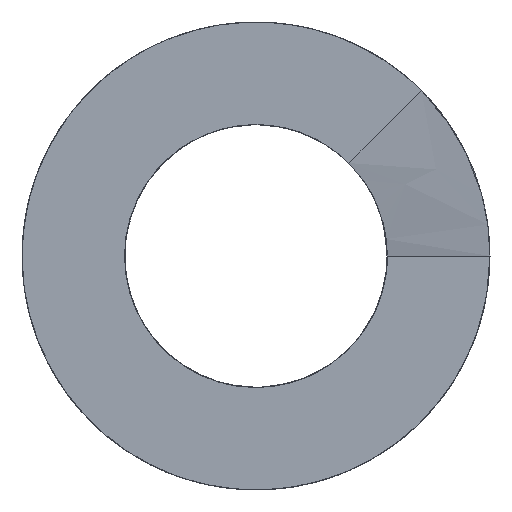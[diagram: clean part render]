
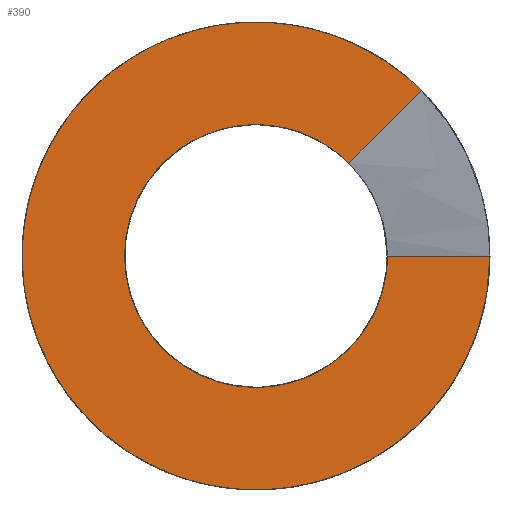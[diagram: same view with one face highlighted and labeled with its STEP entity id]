
A CAD part, front view. The second image highlights one B-rep face of the part: STEP entity #390.
In plain terms, the highlighted planar face has unit normal (0, -1, 0).
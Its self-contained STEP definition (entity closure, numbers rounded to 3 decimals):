
#36=LINE('',#2407,#44);
#44=VECTOR('',#461,10.);
#74=B_SPLINE_CURVE_WITH_KNOTS('',3,(#1850,#1851,#1852,#1853,#1854,#1855,
#1856,#1857,#1858,#1859,#1860,#1861,#1862,#1863,#1864,#1865,#1866,#1867,
#1868,#1869,#1870,#1871,#1872,#1873,#1874,#1875,#1876,#1877,#1878,#1879,
#1880,#1881,#1882,#1883,#1884,#1885,#1886,#1887),.UNSPECIFIED.,.F.,.F.,
(4,2,2,2,2,2,2,2,2,2,2,2,2,2,2,2,2,2,4),(-4.879,-4.531,
-4.186,-3.87,-3.589,-3.339,
-3.127,-2.994,-2.919,-2.869,
-2.766,-2.42,-2.074,-1.729,
-1.383,-1.037,-0.691,-0.346,
0.),.UNSPECIFIED.);
#83=B_SPLINE_CURVE_WITH_KNOTS('',3,(#2305,#2306,#2307,#2308,#2309,#2310,
#2311,#2312,#2313,#2314,#2315,#2316,#2317,#2318,#2319,#2320,#2321,#2322,
#2323,#2324,#2325,#2326,#2327,#2328,#2329,#2330,#2331,#2332,#2333,#2334,
#2335,#2336,#2337,#2338,#2339,#2340,#2341,#2342),.UNSPECIFIED.,.F.,.F.,
(4,2,2,2,2,2,2,2,2,2,2,2,2,2,2,2,2,2,4),(-8.682,-8.186,
-7.691,-7.075,-6.46,-5.845,
-5.23,-4.614,-3.999,-3.687,
-3.563,-3.484,-3.344,-2.742,
-2.304,-1.853,-1.231,-0.615,
0.),.UNSPECIFIED.);
#89=B_SPLINE_CURVE_WITH_KNOTS('',3,(#2401,#2402,#2403,#2404,#2405,#2406),
 .UNSPECIFIED.,.F.,.F.,(4,2,4),(-0.69,-0.345,0.),.UNSPECIFIED.);
#114=FACE_OUTER_BOUND('',#140,.T.);
#140=EDGE_LOOP('',(#335,#336,#337,#338));
#171=VERTEX_POINT('',#1566);
#178=VERTEX_POINT('',#1844);
#181=VERTEX_POINT('',#1988);
#186=VERTEX_POINT('',#2304);
#224=EDGE_CURVE('',#178,#171,#74,.T.);
#235=EDGE_CURVE('',#181,#186,#83,.T.);
#242=EDGE_CURVE('',#186,#178,#89,.T.);
#243=EDGE_CURVE('',#171,#181,#36,.T.);
#335=ORIENTED_EDGE('',*,*,#242,.F.);
#336=ORIENTED_EDGE('',*,*,#235,.F.);
#337=ORIENTED_EDGE('',*,*,#243,.F.);
#338=ORIENTED_EDGE('',*,*,#224,.F.);
#372=PLANE('',#429);
#390=ADVANCED_FACE('',(#114),#372,.F.);
#429=AXIS2_PLACEMENT_3D('',#2400,#459,#460);
#459=DIRECTION('center_axis',(0.,1.,0.));
#460=DIRECTION('ref_axis',(0.,0.,1.));
#461=DIRECTION('',(1.,0.,0.));
#1566=CARTESIAN_POINT('',(8.85,0.,0.));
#1844=CARTESIAN_POINT('',(6.258,0.,6.258));
#1850=CARTESIAN_POINT('Ctrl Pts',(6.258,0.,
6.258));
#1851=CARTESIAN_POINT('Ctrl Pts',(5.44,0.,
7.076));
#1852=CARTESIAN_POINT('Ctrl Pts',(4.469,0.,
7.726));
#1853=CARTESIAN_POINT('Ctrl Pts',(2.336,0.,
8.614));
#1854=CARTESIAN_POINT('Ctrl Pts',(1.196,0.,
8.844));
#1855=CARTESIAN_POINT('Ctrl Pts',(-1.008,0.,
8.855));
#1856=CARTESIAN_POINT('Ctrl Pts',(-2.052,0.,
8.673));
#1857=CARTESIAN_POINT('Ctrl Pts',(-3.921,0.,
7.989));
#1858=CARTESIAN_POINT('Ctrl Pts',(-4.746,0.,
7.528));
#1859=CARTESIAN_POINT('Ctrl Pts',(-6.137,0.,
6.431));
#1860=CARTESIAN_POINT('Ctrl Pts',(-6.714,0.,
5.825));
#1861=CARTESIAN_POINT('Ctrl Pts',(-7.609,0.,
4.574));
#1862=CARTESIAN_POINT('Ctrl Pts',(-7.949,0.,
3.953));
#1863=CARTESIAN_POINT('Ctrl Pts',(-8.378,0.,
2.887));
#1864=CARTESIAN_POINT('Ctrl Pts',(-8.512,0.,
2.463));
#1865=CARTESIAN_POINT('Ctrl Pts',(-8.671,0.,
1.786));
#1866=CARTESIAN_POINT('Ctrl Pts',(-8.719,0.,
1.539));
#1867=CARTESIAN_POINT('Ctrl Pts',(-8.779,0.,
1.128));
#1868=CARTESIAN_POINT('Ctrl Pts',(-8.799,0.,
0.965));
#1869=CARTESIAN_POINT('Ctrl Pts',(-8.845,0.,
0.458));
#1870=CARTESIAN_POINT('Ctrl Pts',(-8.856,0.,0.113));
#1871=CARTESIAN_POINT('Ctrl Pts',(-8.817,0.,-1.384));
#1872=CARTESIAN_POINT('Ctrl Pts',(-8.562,0.,-2.519));
#1873=CARTESIAN_POINT('Ctrl Pts',(-7.631,0.,-4.628));
#1874=CARTESIAN_POINT('Ctrl Pts',(-6.964,0.,-5.581));
#1875=CARTESIAN_POINT('Ctrl Pts',(-5.303,0.,-7.179));
#1876=CARTESIAN_POINT('Ctrl Pts',(-4.324,0.,-7.807));
#1877=CARTESIAN_POINT('Ctrl Pts',(-2.18,0.,-8.654));
#1878=CARTESIAN_POINT('Ctrl Pts',(-1.036,0.,-8.864));
#1879=CARTESIAN_POINT('Ctrl Pts',(1.268,0.,-8.834));
#1880=CARTESIAN_POINT('Ctrl Pts',(2.407,0.,-8.594));
#1881=CARTESIAN_POINT('Ctrl Pts',(4.527,0.,-7.691));
#1882=CARTESIAN_POINT('Ctrl Pts',(5.489,0.,-7.037));
#1883=CARTESIAN_POINT('Ctrl Pts',(7.108,0.,-5.396));
#1884=CARTESIAN_POINT('Ctrl Pts',(7.75,0.,-4.426));
#1885=CARTESIAN_POINT('Ctrl Pts',(8.625,0.,-2.294));
#1886=CARTESIAN_POINT('Ctrl Pts',(8.85,0.,-1.152));
#1887=CARTESIAN_POINT('Ctrl Pts',(8.85,0.,0.));
#1988=CARTESIAN_POINT('',(15.75,0.,0.));
#2304=CARTESIAN_POINT('',(11.137,0.,11.137));
#2305=CARTESIAN_POINT('Ctrl Pts',(15.75,0.,0.));
#2306=CARTESIAN_POINT('Ctrl Pts',(15.75,0.,-1.652));
#2307=CARTESIAN_POINT('Ctrl Pts',(15.49,0.,-3.294));
#2308=CARTESIAN_POINT('Ctrl Pts',(14.469,0.,-6.437));
#2309=CARTESIAN_POINT('Ctrl Pts',(13.715,0.,-7.918));
#2310=CARTESIAN_POINT('Ctrl Pts',(11.539,0.,-10.914));
#2311=CARTESIAN_POINT('Ctrl Pts',(10.021,0.,-12.323));
#2312=CARTESIAN_POINT('Ctrl Pts',(6.531,0.,-14.478));
#2313=CARTESIAN_POINT('Ctrl Pts',(4.592,0.,-15.205));
#2314=CARTESIAN_POINT('Ctrl Pts',(0.546,0.,-15.874));
#2315=CARTESIAN_POINT('Ctrl Pts',(-1.524,0.,-15.81));
#2316=CARTESIAN_POINT('Ctrl Pts',(-5.522,0.,-14.892));
#2317=CARTESIAN_POINT('Ctrl Pts',(-7.412,0.,-14.048));
#2318=CARTESIAN_POINT('Ctrl Pts',(-10.762,0.,-11.681));
#2319=CARTESIAN_POINT('Ctrl Pts',(-12.19,0.,-10.182));
#2320=CARTESIAN_POINT('Ctrl Pts',(-14.391,0.,-6.721));
#2321=CARTESIAN_POINT('Ctrl Pts',(-15.143,0.,-4.792));
#2322=CARTESIAN_POINT('Ctrl Pts',(-15.687,0.,-1.749));
#2323=CARTESIAN_POINT('Ctrl Pts',(-15.768,0.,
-0.71));
#2324=CARTESIAN_POINT('Ctrl Pts',(-15.738,0.,
0.744));
#2325=CARTESIAN_POINT('Ctrl Pts',(-15.713,0.,
1.157));
#2326=CARTESIAN_POINT('Ctrl Pts',(-15.646,0.,
1.829));
#2327=CARTESIAN_POINT('Ctrl Pts',(-15.613,0.,
2.089));
#2328=CARTESIAN_POINT('Ctrl Pts',(-15.504,0.,
2.813));
#2329=CARTESIAN_POINT('Ctrl Pts',(-15.413,0.,
3.274));
#2330=CARTESIAN_POINT('Ctrl Pts',(-14.827,0.,
5.678));
#2331=CARTESIAN_POINT('Ctrl Pts',(-13.984,0.,
7.518));
#2332=CARTESIAN_POINT('Ctrl Pts',(-11.971,0.,
10.339));
#2333=CARTESIAN_POINT('Ctrl Pts',(-10.961,0.,
11.404));
#2334=CARTESIAN_POINT('Ctrl Pts',(-8.644,0.,
13.251));
#2335=CARTESIAN_POINT('Ctrl Pts',(-7.341,0.,
14.015));
#2336=CARTESIAN_POINT('Ctrl Pts',(-4.029,0.,
15.367));
#2337=CARTESIAN_POINT('Ctrl Pts',(-1.971,0.,
15.763));
#2338=CARTESIAN_POINT('Ctrl Pts',(2.154,0.,
15.736));
#2339=CARTESIAN_POINT('Ctrl Pts',(4.183,0.,
15.322));
#2340=CARTESIAN_POINT('Ctrl Pts',(7.967,0.,
13.74));
#2341=CARTESIAN_POINT('Ctrl Pts',(9.687,0.,
12.587));
#2342=CARTESIAN_POINT('Ctrl Pts',(11.137,0.,
11.137));
#2400=CARTESIAN_POINT('Origin',(0.,0.,0.));
#2401=CARTESIAN_POINT('Ctrl Pts',(11.137,0.,11.137));
#2402=CARTESIAN_POINT('Ctrl Pts',(10.324,0.,
10.324));
#2403=CARTESIAN_POINT('Ctrl Pts',(9.511,0.,
9.511));
#2404=CARTESIAN_POINT('Ctrl Pts',(7.884,0.,7.884));
#2405=CARTESIAN_POINT('Ctrl Pts',(7.071,0.,
7.071));
#2406=CARTESIAN_POINT('Ctrl Pts',(6.258,0.,6.258));
#2407=CARTESIAN_POINT('',(6.15,0.,0.));
